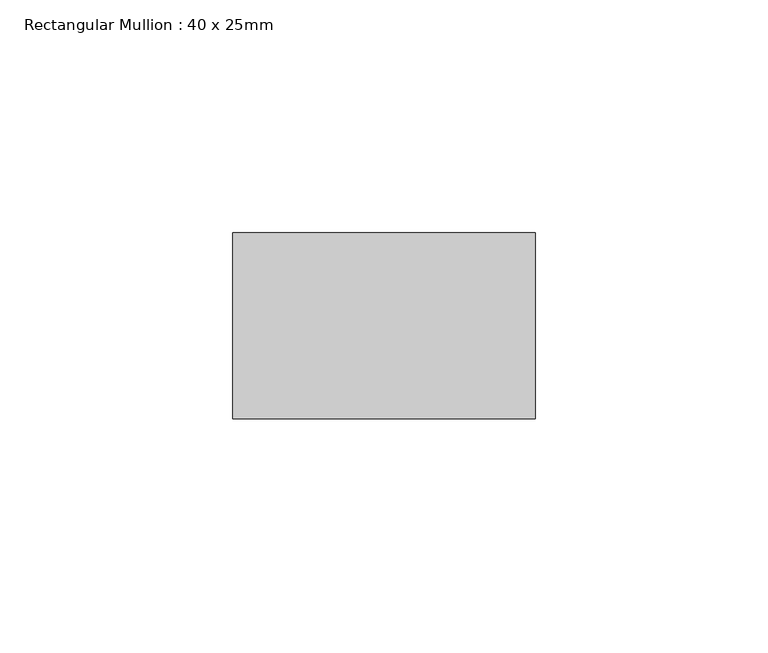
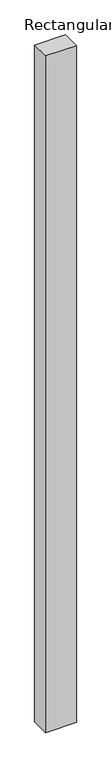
"""IFC4 building model written with IfcOpenShell, lengths in millimetres: member geometry, Rectangular Mullion : 40 x 25mm."""

from ifc_helpers import new_model, si_unit, frame, origin, place, context, project, spatial, polyline, outline, extrude, source, transform, mapped, element, save


def rectangular_mullion_40_x_25mm_c4d92cf1(model_context):
    return source(origin(), model_context, "Body", "SweptSolid", [
        extrude(outline(polyline([(40.0, -20.0), (40.0, -60.0), (-25.0, -60.0), (-25.0, -20.0), (40.0, -20.0)])), frame((0.0, 0.0, -1515.0), z_axis=(0.0, 0.0, 1.0), x_axis=(1.0, 0.0, 0.0)), (0.0, 0.0, 1.0), 1515.0),
    ])


if __name__ == "__main__":
    model = new_model("IFC4")
    model_context = context("Model", 3, world=origin())
    ifc_project = project(units=[si_unit("LENGTHUNIT", "METRE", prefix="MILLI")], contexts=[model_context])
    site = spatial("IfcSite", under=ifc_project)
    building = spatial("IfcBuilding", under=site)
    placement = place(None, origin())
    rectangular_mullion_40_x_25mm_shape = rectangular_mullion_40_x_25mm_c4d92cf1(model_context)
    element("IfcMember", 1, ObjectType="Rectangular Mullion : 40 x 25mm", at=placement, inside=building, context=model_context, shape_type="MappedRepresentation", body=[
        mapped(rectangular_mullion_40_x_25mm_shape, transform((0.0, 0.0, 0.0), x_axis=(1.0, 0.0, 0.0), y_axis=(0.0, 1.0, 0.0), z_axis=(0.0, 0.0, 1.0))),
    ])
    save(model, "model.ifc")
